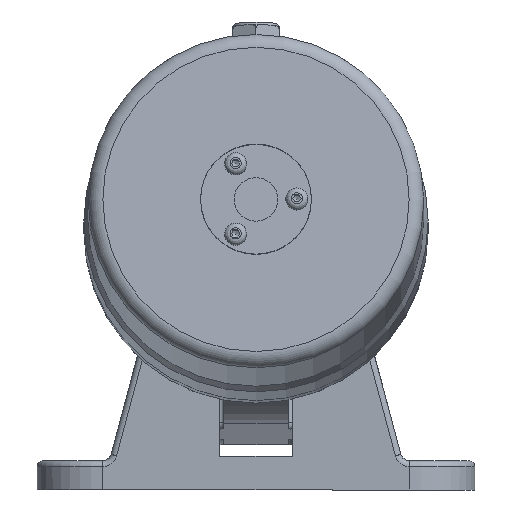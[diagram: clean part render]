
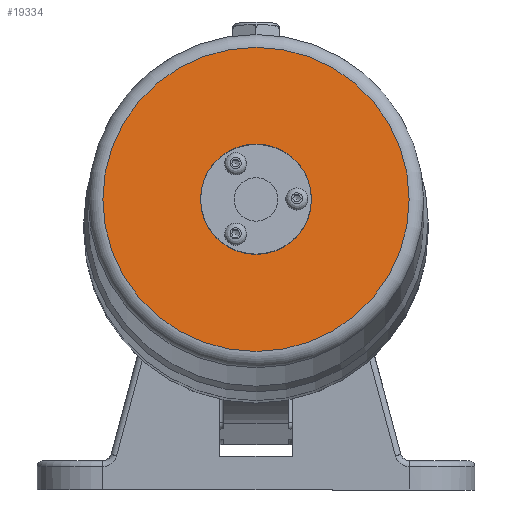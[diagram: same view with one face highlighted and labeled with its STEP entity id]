
A CAD part, front view. The second image highlights one B-rep face of the part: STEP entity #19334.
In plain terms, the highlighted planar face has unit normal (0, -0.993, 0.119).
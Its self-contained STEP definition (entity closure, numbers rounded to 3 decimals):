
#666=FACE_BOUND('',#3983,.T.);
#1762=CIRCLE('',#21154,52.5);
#1764=CIRCLE('',#21156,52.5);
#1872=CIRCLE('',#21392,19.);
#2852=FACE_OUTER_BOUND('',#3982,.T.);
#3982=EDGE_LOOP('',(#16757,#16758));
#3983=EDGE_LOOP('',(#16759));
#8393=VERTEX_POINT('',#36073);
#8394=VERTEX_POINT('',#36074);
#8624=VERTEX_POINT('',#37005);
#11019=EDGE_CURVE('',#8393,#8394,#1762,.T.);
#11021=EDGE_CURVE('',#8394,#8393,#1764,.T.);
#11348=EDGE_CURVE('',#8624,#8624,#1872,.T.);
#16757=ORIENTED_EDGE('',*,*,#11019,.F.);
#16758=ORIENTED_EDGE('',*,*,#11021,.F.);
#16759=ORIENTED_EDGE('',*,*,#11348,.T.);
#17437=PLANE('',#21391);
#19334=ADVANCED_FACE('',(#2852,#666),#17437,.T.);
#21154=AXIS2_PLACEMENT_3D('',#36075,#26127,#26128);
#21156=AXIS2_PLACEMENT_3D('',#36077,#26131,#26132);
#21391=AXIS2_PLACEMENT_3D('',#37004,#26752,#26753);
#21392=AXIS2_PLACEMENT_3D('',#37006,#26754,#26755);
#26127=DIRECTION('center_axis',(0.,0.993,
-0.119));
#26128=DIRECTION('ref_axis',(0.,-0.119,-0.993));
#26131=DIRECTION('center_axis',(0.,0.993,
-0.119));
#26132=DIRECTION('ref_axis',(0.,-0.119,-0.993));
#26752=DIRECTION('center_axis',(0.,-0.993,
0.119));
#26753=DIRECTION('ref_axis',(1.,0.,0.));
#26754=DIRECTION('center_axis',(0.,0.993,
-0.119));
#26755=DIRECTION('ref_axis',(-0.866,-0.06,-0.496));
#36073=CARTESIAN_POINT('',(0.,-182.652,152.076));
#36074=CARTESIAN_POINT('',(-52.5,-188.915,99.95));
#36075=CARTESIAN_POINT('Origin',(0.,-188.915,
99.95));
#36077=CARTESIAN_POINT('Origin',(0.,-188.915,
99.95));
#37004=CARTESIAN_POINT('Origin',(0.,-185.485,
128.495));
#37005=CARTESIAN_POINT('',(16.454,-187.781,109.383));
#37006=CARTESIAN_POINT('Origin',(0.,-188.915,
99.95));
